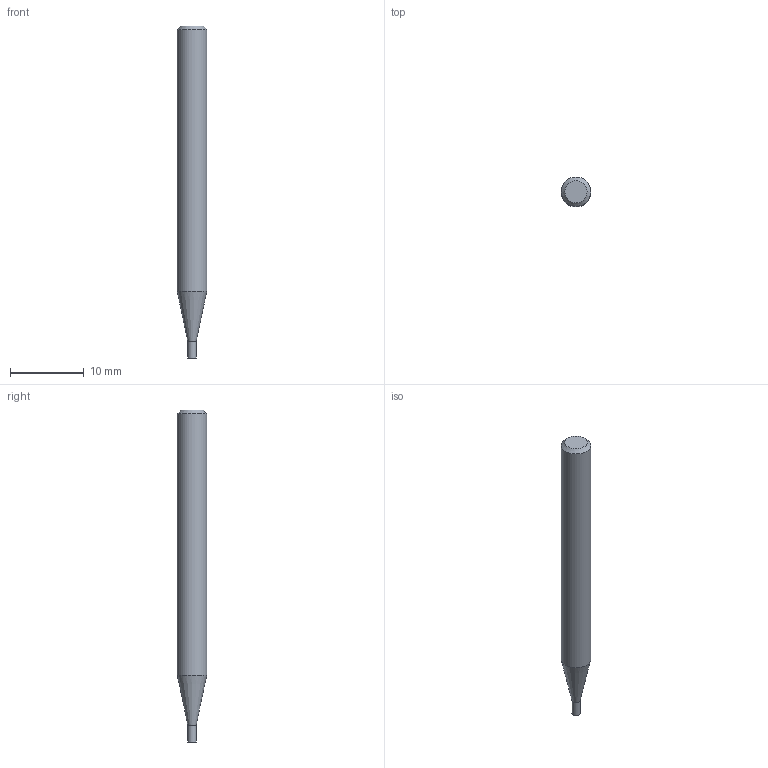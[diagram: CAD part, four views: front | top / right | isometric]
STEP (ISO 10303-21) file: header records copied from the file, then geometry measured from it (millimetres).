
FILE_DESCRIPTION((''),'2;1');
FILE_NAME('C:\Users\nsx150\AppData\Local\Temp\Mastercam 2021\E36A1X9CCL\TEMP.step','2023-04-21T15:12:14',(''),(''),'STEP Write','Mastercam 2021 ... CNC Software, Inc.','');
FILE_SCHEMA(('AUTOMOTIVE_DESIGN'));
Length unit declared in the file: millimetre
Products named in the file (1): None
Bounding box: 4 x 4 x 45 mm (x, y, z)
Volume: 491.4 mm3; surface area: 527 mm2
Topology: 2 solids, 2 shells, 8 faces, 10 edges, 6 vertices
Faces by surface type: plane 4, cylinder 2, cone 2
Full cylindrical faces by diameter (mm): 1.1 x1, 4 x1
Entity records: 190 total; most frequent: DIRECTION 32, CARTESIAN_POINT 22, AXIS2_PLACEMENT_3D 16, ORIENTED_EDGE 12, EDGE_LOOP 12, STYLED_ITEM 11, ADVANCED_FACE 8, VERTEX_POINT 6
